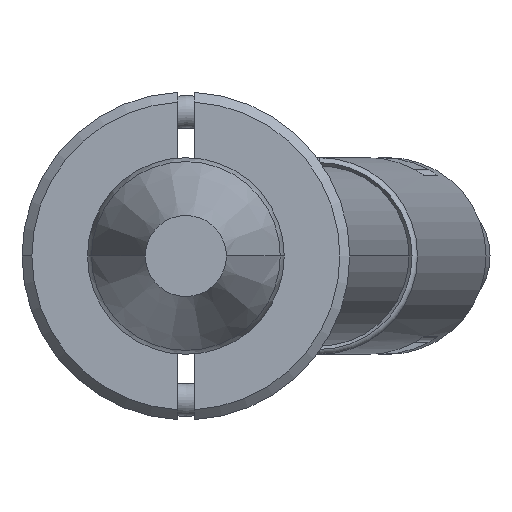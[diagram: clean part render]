
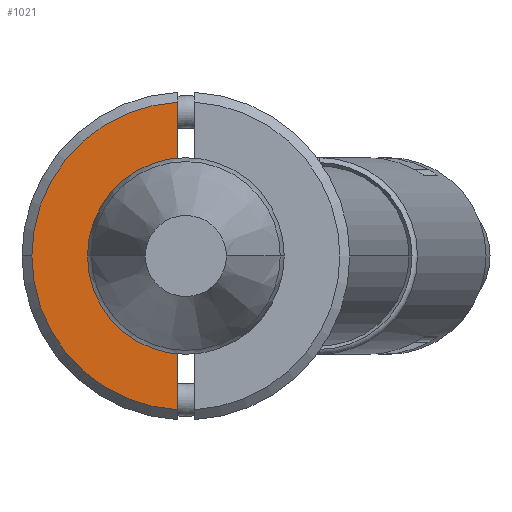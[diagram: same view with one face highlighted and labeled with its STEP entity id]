
A CAD part, front view. The second image highlights one B-rep face of the part: STEP entity #1021.
In plain terms, the highlighted planar face has unit normal (0, -1, 0).
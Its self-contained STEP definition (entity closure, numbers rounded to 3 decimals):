
#94 = VERTEX_POINT ( 'NONE', #3659 ) ;
#317 = CIRCLE ( 'NONE', #1046, 2.45 ) ;
#441 = ORIENTED_EDGE ( 'NONE', *, *, #2436, .T. ) ;
#624 = EDGE_CURVE ( 'NONE', #3100, #3072, #1318, .T. ) ;
#631 = EDGE_CURVE ( 'NONE', #1928, #94, #3063, .T. ) ;
#648 = FACE_OUTER_BOUND ( 'NONE', #2136, .T. ) ;
#808 = LINE ( 'NONE', #1392, #1880 ) ;
#923 = DIRECTION ( 'NONE',  ( 0., 0., -1. ) ) ;
#1021 = ADVANCED_FACE ( 'NONE', ( #648 ), #2090, .T. ) ;
#1046 = AXIS2_PLACEMENT_3D ( 'NONE', #2711, #3577, #923 ) ;
#1053 = ORIENTED_EDGE ( 'NONE', *, *, #3096, .T. ) ;
#1318 = CIRCLE ( 'NONE', #1987, 4.7 ) ;
#1392 = CARTESIAN_POINT ( 'NONE',  ( -5., -6., 0.25 ) ) ;
#1407 = DIRECTION ( 'NONE',  ( -1., 0., 0. ) ) ;
#1505 = VECTOR ( 'NONE', #1887, 1000. ) ;
#1541 = DIRECTION ( 'NONE',  ( 0., 0., -1. ) ) ;
#1720 = CARTESIAN_POINT ( 'NONE',  ( 4.693, -6., 0.25 ) ) ;
#1826 = CARTESIAN_POINT ( 'NONE',  ( -5., -6., 0. ) ) ;
#1833 = EDGE_CURVE ( 'NONE', #2509, #3072, #808, .T. ) ;
#1839 = CARTESIAN_POINT ( 'NONE',  ( -2.437, -6., 0.25 ) ) ;
#1867 = DIRECTION ( 'NONE',  ( 0., 0., -1. ) ) ;
#1880 = VECTOR ( 'NONE', #1407, 1000. ) ;
#1887 = DIRECTION ( 'NONE',  ( -1., 0., 0. ) ) ;
#1928 = VERTEX_POINT ( 'NONE', #1720 ) ;
#1987 = AXIS2_PLACEMENT_3D ( 'NONE', #3661, #3351, #1867 ) ;
#2010 = DIRECTION ( 'NONE',  ( 0., -1., 0. ) ) ;
#2090 = PLANE ( 'NONE',  #2493 ) ;
#2095 = CARTESIAN_POINT ( 'NONE',  ( -5., -6., 0.25 ) ) ;
#2109 = AXIS2_PLACEMENT_3D ( 'NONE', #2989, #2010, #2141 ) ;
#2136 = EDGE_LOOP ( 'NONE', ( #2853, #441, #3322, #2896, #1053 ) ) ;
#2141 = DIRECTION ( 'NONE',  ( 0., 0., -1. ) ) ;
#2371 = CARTESIAN_POINT ( 'NONE',  ( -4.693, -6., 0.25 ) ) ;
#2436 = EDGE_CURVE ( 'NONE', #1928, #3100, #2811, .T. ) ;
#2493 = AXIS2_PLACEMENT_3D ( 'NONE', #1826, #3014, #1541 ) ;
#2509 = VERTEX_POINT ( 'NONE', #1839 ) ;
#2711 = CARTESIAN_POINT ( 'NONE',  ( 0., -6., 0. ) ) ;
#2811 = CIRCLE ( 'NONE', #2109, 4.7 ) ;
#2853 = ORIENTED_EDGE ( 'NONE', *, *, #631, .F. ) ;
#2896 = ORIENTED_EDGE ( 'NONE', *, *, #1833, .F. ) ;
#2989 = CARTESIAN_POINT ( 'NONE',  ( 0., -6., 0. ) ) ;
#3014 = DIRECTION ( 'NONE',  ( 0., -1., 0. ) ) ;
#3063 = LINE ( 'NONE', #2095, #1505 ) ;
#3072 = VERTEX_POINT ( 'NONE', #2371 ) ;
#3096 = EDGE_CURVE ( 'NONE', #2509, #94, #317, .T. ) ;
#3100 = VERTEX_POINT ( 'NONE', #3281 ) ;
#3281 = CARTESIAN_POINT ( 'NONE',  ( 0., -6., 4.7 ) ) ;
#3322 = ORIENTED_EDGE ( 'NONE', *, *, #624, .T. ) ;
#3351 = DIRECTION ( 'NONE',  ( 0., -1., 0. ) ) ;
#3577 = DIRECTION ( 'NONE',  ( 0., 1., 0. ) ) ;
#3659 = CARTESIAN_POINT ( 'NONE',  ( 2.437, -6., 0.25 ) ) ;
#3661 = CARTESIAN_POINT ( 'NONE',  ( 0., -6., 0. ) ) ;
